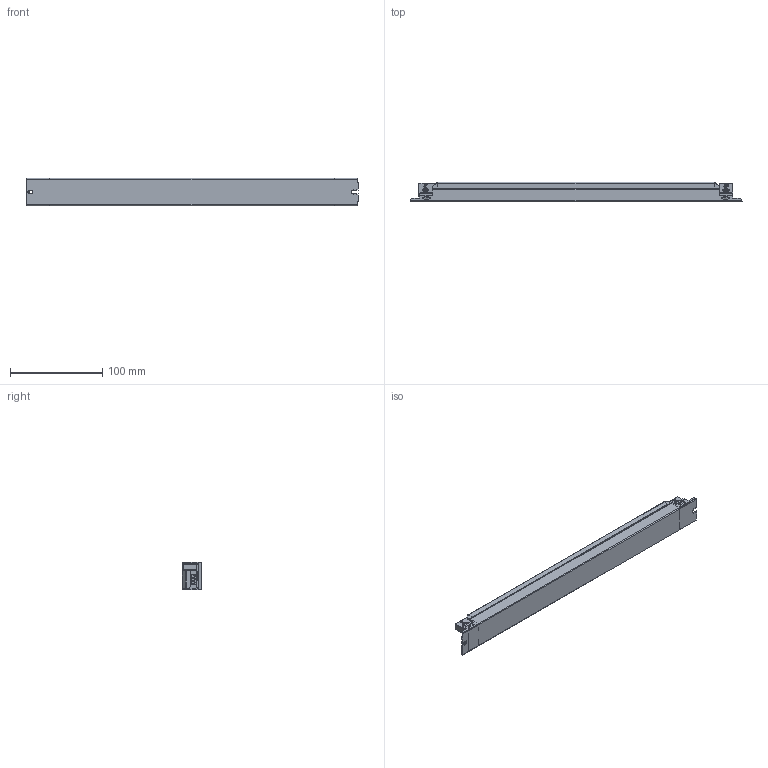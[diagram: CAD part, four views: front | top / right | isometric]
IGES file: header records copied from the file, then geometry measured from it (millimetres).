
Start section: SolidWorks IGES file using analytic representation for surfaces
Global section: file name: C:\Temp\OLQ-batchEngine\queue\temp_\4418902swm000.igs; native system: SolidWorks 2020; preprocessor: SolidWorks 2020; author: SYSTEM; date: 220708.123041; units: millimetre
Bounding box: 359 x 21 x 30 mm (x, y, z)
Surface area: 42522 mm2 (no closed solid volume)
Topology: 0 solids, 0 shells, 735 faces, 6275 edges, 6273 vertices
Faces by surface type: bspline 522, revolution 213
